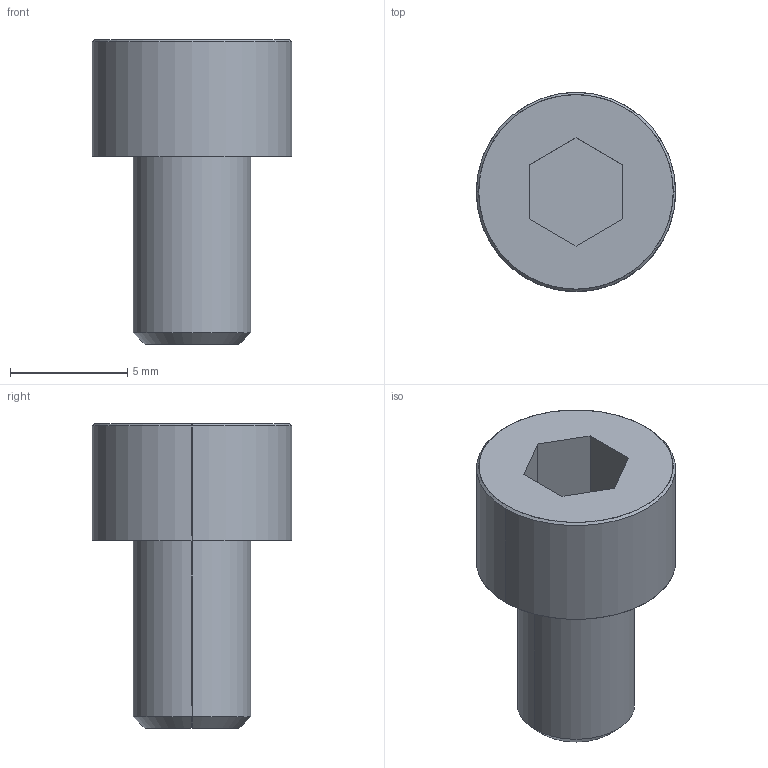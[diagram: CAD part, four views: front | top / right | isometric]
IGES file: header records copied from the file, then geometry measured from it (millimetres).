
Start section: SolidWorks IGES file using analytic representation for surfaces
Bounding box: 8.5 x 8.5 x 13 mm (x, y, z)
Surface area: 407.7 mm2 (no closed solid volume)
Topology: 0 solids, 0 shells, 18 faces, 196 edges, 196 vertices
Faces by surface type: bspline 10, revolution 8
